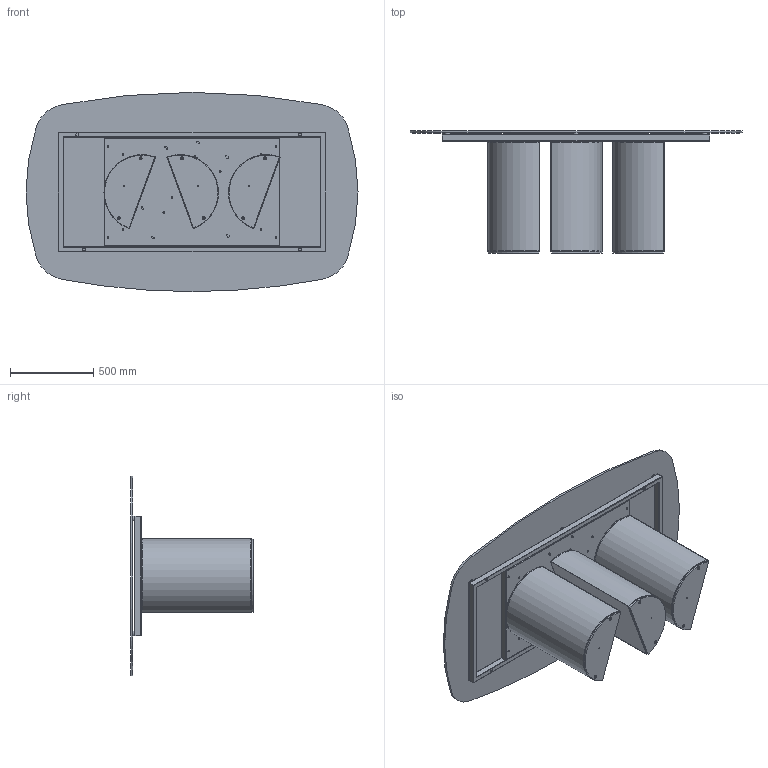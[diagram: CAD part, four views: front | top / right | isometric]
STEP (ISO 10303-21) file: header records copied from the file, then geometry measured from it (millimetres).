
FILE_DESCRIPTION (( 'STEP AP203' ), '1' );
FILE_NAME ('PL41G.STEP', '2024-08-07T13:54:00', ( '' ), ( '' ), 'SwSTEP 2.0', 'SolidWorks 2022', '' );
FILE_SCHEMA (( 'CONFIG_CONTROL_DESIGN' ));
Length unit declared in the file: millimetre
Products named in the file (14): 434070-00-PIEDINO TPV GOMMA NERO D. 30x8max18_filo estetico; M8xXXmm_M8x20mm; COLLO TELAIO UNIVERSALE TTAV0601 CON FERRAMENTA_FERRAMENTA MTG TOP CRISTALLO VERNICIATO-CERAMICA; M8xXXmm_hex_M8X60mm; TTAV0601_02-00-VASSOIO TAVOLI PLAI ONDA NOA 240; Assieme Basamento PLAI_Basamento per tavoli; PLA000000BAS-00-PLAI BASE GREZZA; M8xXXmm_hex_M8X20mm; C4XCRXX-00-Piani Sagomati in Cristallo_2000x1200; PL41G; PLA000000ZOC-01-PLAI ZOCCOLO DELLA BASE; TTAV0601_01-00-STRUTTURA X TAVOLI PLAI ONDA NOA 240; rondella M8_8X24; TTAV0601-00-TELAIO X TAVOLI PLAI ONDA NOA 240cm_TTAV06
Assembly tree (30 placements, depth 4):
  PL41G
    COLLO TELAIO UNIVERSALE TTAV0601 CON FERRAMENTA_FERRAMENTA MTG TOP CRISTALLO VERNICIATO-CERAMICA
      TTAV0601-00-TELAIO X TAVOLI PLAI ONDA NOA 240cm_TTAV06
        TTAV0601_02-00-VASSOIO TAVOLI PLAI ONDA NOA 240
        TTAV0601_01-00-STRUTTURA X TAVOLI PLAI ONDA NOA 240
      434070-00-PIEDINO TPV GOMMA NERO D. 30x8max18_filo estetico  x6
    Assieme Basamento PLAI_Basamento per tavoli  x3
      PLA000000BAS-00-PLAI BASE GREZZA
      PLA000000ZOC-01-PLAI ZOCCOLO DELLA BASE
      M8xXXmm_hex_M8X60mm
      M8xXXmm_hex_M8X20mm
    rondella M8_8X24  x6
    M8xXXmm_M8x20mm  x6
    C4XCRXX-00-Piani Sagomati in Cristallo_2000x1200
Bounding box: 2000 x 736 x 1200 mm (x, y, z)
Volume: 38786020.9 mm3; surface area: 13050146.9 mm2
Topology: 48 solids, 48 shells, 1117 faces, 2501 edges, 1462 vertices
Faces by surface type: plane 467, cylinder 334, cone 200, torus 108, sphere 8
Entity records: 18732 total; most frequent: DIRECTION 3108, CARTESIAN_POINT 2886, ORIENTED_EDGE 2726, EDGE_CURVE 1363, AXIS2_PLACEMENT_3D 1158, VERTEX_POINT 818, LINE 792, VECTOR 792
